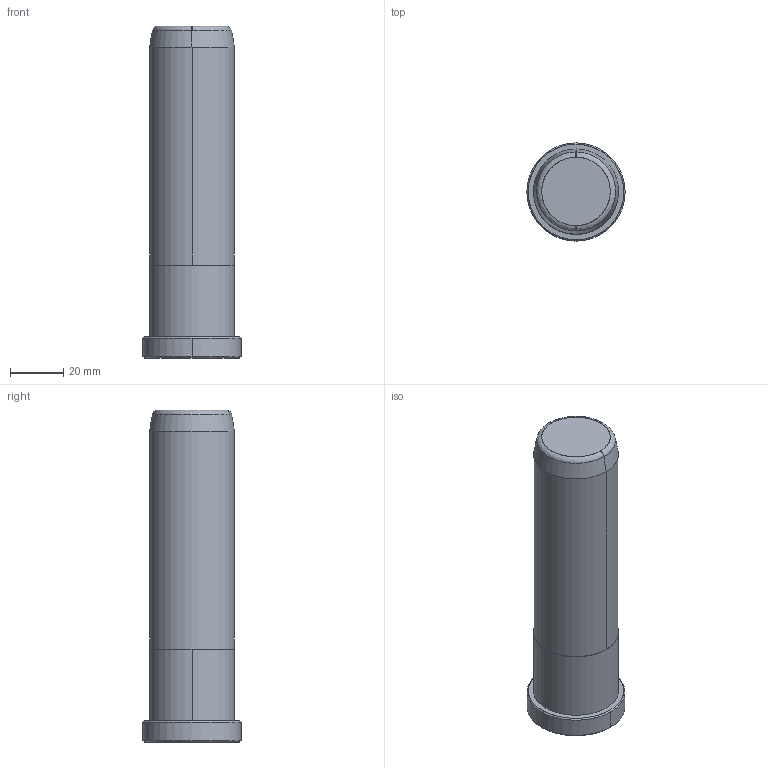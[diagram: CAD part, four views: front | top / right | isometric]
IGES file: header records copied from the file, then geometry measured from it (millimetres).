
Start section: START RECORD GO HERE.
Global section: file name: B80832125.igs; native system: DASSAULT SYSTEMES CATIA V5 R20 - www.3ds.com; preprocessor: CATIA Version 5 Release 20 ; author: Utente; organization: NB04-ASUS; date: 20200419.164811; units: millimetre
Bounding box: 37 x 37 x 125 mm (x, y, z)
Surface area: 14563.2 mm2 (no closed solid volume)
Topology: 0 solids, 0 shells, 20 faces, 80 edges, 80 vertices
Faces by surface type: revolution 16, plane 4
